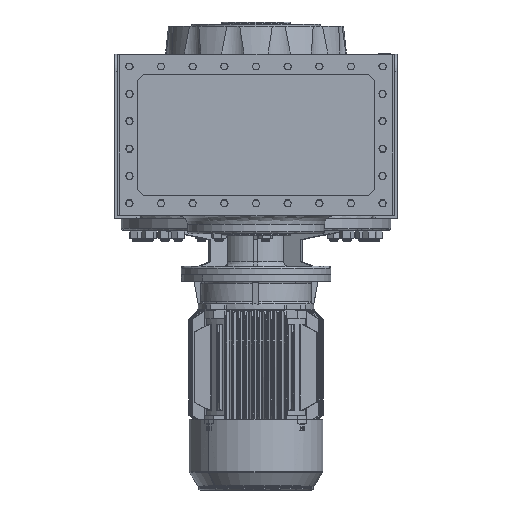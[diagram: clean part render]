
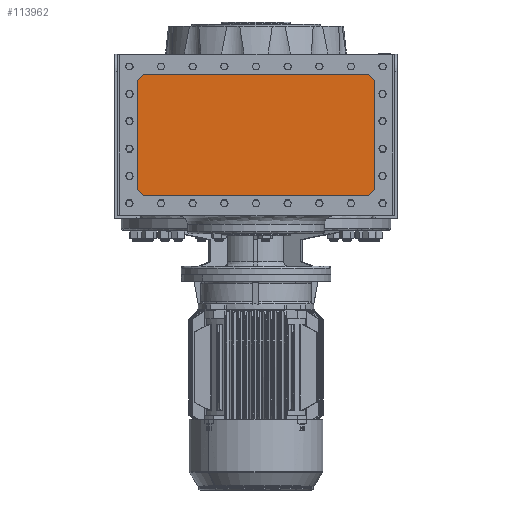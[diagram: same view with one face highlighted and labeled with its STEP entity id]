
A CAD part, front view. The second image highlights one B-rep face of the part: STEP entity #113962.
In plain terms, the highlighted planar face has unit normal (0, -1, 0).
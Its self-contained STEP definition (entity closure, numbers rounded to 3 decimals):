
#7454 = FACE_OUTER_BOUND ( 'NONE', #58435, .T. ) ;
#8801 = CARTESIAN_POINT ( 'NONE',  ( -277.196, -262., 321.667 ) ) ;
#8848 = CARTESIAN_POINT ( 'NONE',  ( 262.667, -262., 53.804 ) ) ;
#8859 = CARTESIAN_POINT ( 'NONE',  ( -262.667, -262., 53.804 ) ) ;
#8861 = CARTESIAN_POINT ( 'NONE',  ( 277.196, -262., 321.667 ) ) ;
#8863 = CARTESIAN_POINT ( 'NONE',  ( -262.667, -262., 336.196 ) ) ;
#8904 = CARTESIAN_POINT ( 'NONE',  ( 277.196, -262., 68.333 ) ) ;
#8948 = CARTESIAN_POINT ( 'NONE',  ( 262.667, -262., 336.196 ) ) ;
#8994 = CARTESIAN_POINT ( 'NONE',  ( -277.196, -262., 68.333 ) ) ;
#10312 = AXIS2_PLACEMENT_3D ( 'NONE', #46907, #46916, #46938 ) ;
#34980 = LINE ( 'NONE', #48849, #35017 ) ;
#34993 = LINE ( 'NONE', #49038, #34996 ) ;
#34996 = VECTOR ( 'NONE', #48987, 1000. ) ;
#35017 = VECTOR ( 'NONE', #48898, 1000. ) ;
#35022 = LINE ( 'NONE', #48666, #35084 ) ;
#35050 = VECTOR ( 'NONE', #48945, 1000. ) ;
#35062 = LINE ( 'NONE', #48843, #35050 ) ;
#35084 = VECTOR ( 'NONE', #48685, 1000. ) ;
#35097 = VECTOR ( 'NONE', #51714, 1000. ) ;
#35120 = VECTOR ( 'NONE', #49118, 1000. ) ;
#35134 = LINE ( 'NONE', #51705, #35097 ) ;
#35143 = VECTOR ( 'NONE', #51736, 1000. ) ;
#35155 = LINE ( 'NONE', #51700, #35161 ) ;
#35159 = LINE ( 'NONE', #51717, #35143 ) ;
#35161 = VECTOR ( 'NONE', #51735, 1000. ) ;
#35215 = LINE ( 'NONE', #49111, #35120 ) ;
#46907 = CARTESIAN_POINT ( 'NONE',  ( 0., -262., 0. ) ) ;
#46916 = DIRECTION ( 'NONE',  ( 0., -1., 0. ) ) ;
#46938 = DIRECTION ( 'NONE',  ( 0., 0., -1. ) ) ;
#46950 = PLANE ( 'NONE',  #10312 ) ;
#48666 = CARTESIAN_POINT ( 'NONE',  ( -277.196, -262., 68. ) ) ;
#48685 = DIRECTION ( 'NONE',  ( 0., 0., 1. ) ) ;
#48843 = CARTESIAN_POINT ( 'NONE',  ( 277.432, -262., 321.432 ) ) ;
#48849 = CARTESIAN_POINT ( 'NONE',  ( -262.432, -262., 53.568 ) ) ;
#48898 = DIRECTION ( 'NONE',  ( -0.707, 0., 0.707 ) ) ;
#48945 = DIRECTION ( 'NONE',  ( 0.707, 0., -0.707 ) ) ;
#48987 = DIRECTION ( 'NONE',  ( -0.707, 0., -0.707 ) ) ;
#49038 = CARTESIAN_POINT ( 'NONE',  ( 262.432, -262., 53.568 ) ) ;
#49111 = CARTESIAN_POINT ( 'NONE',  ( 263., -262., 53.804 ) ) ;
#49118 = DIRECTION ( 'NONE',  ( -1., 0., 0. ) ) ;
#51700 = CARTESIAN_POINT ( 'NONE',  ( -262.432, -262., 336.432 ) ) ;
#51705 = CARTESIAN_POINT ( 'NONE',  ( 263., -262., 336.196 ) ) ;
#51714 = DIRECTION ( 'NONE',  ( 1., 0., 0. ) ) ;
#51717 = CARTESIAN_POINT ( 'NONE',  ( 277.196, -262., 68. ) ) ;
#51735 = DIRECTION ( 'NONE',  ( 0.707, 0., 0.707 ) ) ;
#51736 = DIRECTION ( 'NONE',  ( 0., 0., -1. ) ) ;
#58435 = EDGE_LOOP ( 'NONE', ( #120553, #120557, #120493, #120645, #120669, #120599, #120468, #120641 ) ) ;
#83153 = VERTEX_POINT ( 'NONE', #8848 ) ;
#83154 = VERTEX_POINT ( 'NONE', #8801 ) ;
#83190 = VERTEX_POINT ( 'NONE', #8863 ) ;
#83240 = VERTEX_POINT ( 'NONE', #8859 ) ;
#83247 = VERTEX_POINT ( 'NONE', #8861 ) ;
#83272 = VERTEX_POINT ( 'NONE', #8948 ) ;
#83276 = VERTEX_POINT ( 'NONE', #8994 ) ;
#83304 = VERTEX_POINT ( 'NONE', #8904 ) ;
#91975 = EDGE_CURVE ( 'NONE', #83276, #83154, #35022, .T. ) ;
#91981 = EDGE_CURVE ( 'NONE', #83240, #83276, #34980, .T. ) ;
#91983 = EDGE_CURVE ( 'NONE', #83272, #83247, #35062, .T. ) ;
#91990 = EDGE_CURVE ( 'NONE', #83304, #83153, #34993, .T. ) ;
#92002 = EDGE_CURVE ( 'NONE', #83153, #83240, #35215, .T. ) ;
#92027 = EDGE_CURVE ( 'NONE', #83154, #83190, #35155, .T. ) ;
#92028 = EDGE_CURVE ( 'NONE', #83247, #83304, #35159, .T. ) ;
#92029 = EDGE_CURVE ( 'NONE', #83190, #83272, #35134, .T. ) ;
#113962 = ADVANCED_FACE ( 'NONE', ( #7454 ), #46950, .T. ) ;
#120468 = ORIENTED_EDGE ( 'NONE', *, *, #92029, .F. ) ;
#120493 = ORIENTED_EDGE ( 'NONE', *, *, #92002, .F. ) ;
#120553 = ORIENTED_EDGE ( 'NONE', *, *, #91975, .F. ) ;
#120557 = ORIENTED_EDGE ( 'NONE', *, *, #91981, .F. ) ;
#120599 = ORIENTED_EDGE ( 'NONE', *, *, #91983, .F. ) ;
#120641 = ORIENTED_EDGE ( 'NONE', *, *, #92027, .F. ) ;
#120645 = ORIENTED_EDGE ( 'NONE', *, *, #91990, .F. ) ;
#120669 = ORIENTED_EDGE ( 'NONE', *, *, #92028, .F. ) ;
